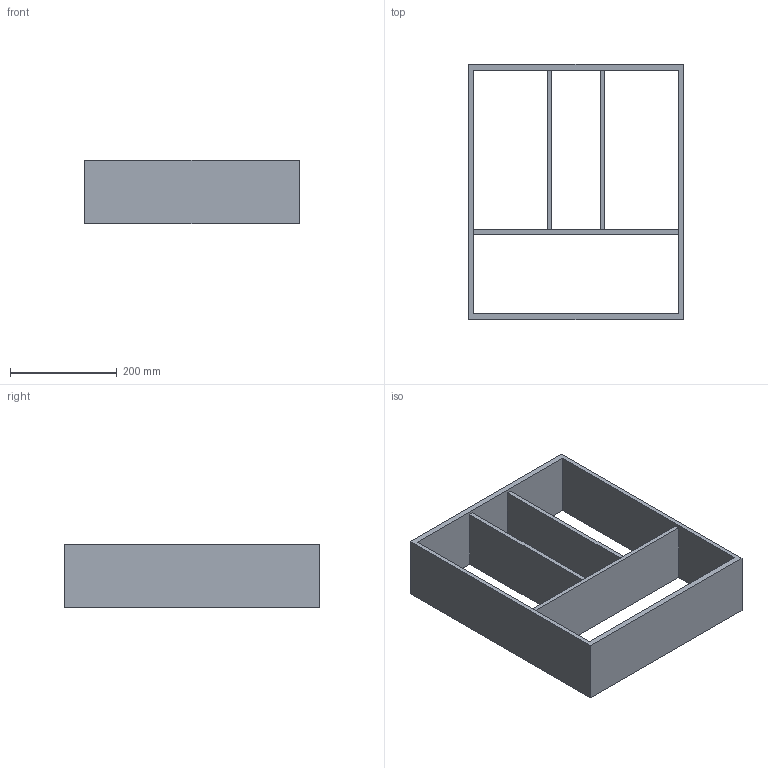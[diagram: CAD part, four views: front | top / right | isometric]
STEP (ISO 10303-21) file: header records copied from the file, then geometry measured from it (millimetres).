
FILE_DESCRIPTION (( 'STEP AP214' ), '1' );
FILE_NAME ('Vario Multi H120 NL500_B500_19 mm_Alu-Buche.step', '2010-10-08T09:47:32', ( 'grass' ), ( '' ), 'SwSTEP 2.0', 'SolidWorks 2010', '' );
FILE_SCHEMA (( 'AUTOMOTIVE_DESIGN' ));
Length unit declared in the file: millimetre
Products named in the file (1): Vario Multi H120 NL500_B500_19 mm_Alu-Buche
Bounding box: 402 x 479 x 120 mm (x, y, z)
Volume: 2837364.4 mm3; surface area: 681032.2 mm2
Topology: 1 solids, 1 shells, 22 faces, 60 edges, 40 vertices
Faces by surface type: plane 22
Entity records: 734 total; most frequent: CARTESIAN_POINT 123, ORIENTED_EDGE 120, DIRECTION 106, VECTOR 60, LINE 60, EDGE_CURVE 60, VERTEX_POINT 40, EDGE_LOOP 30
